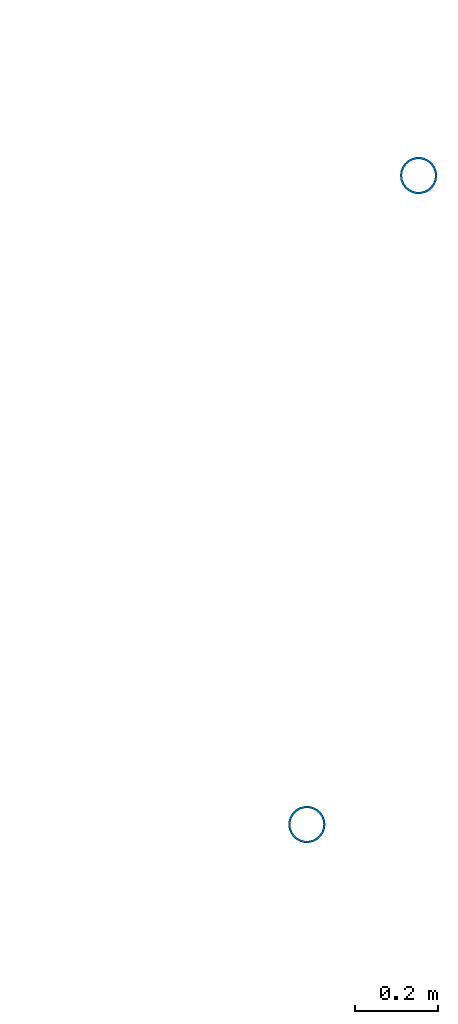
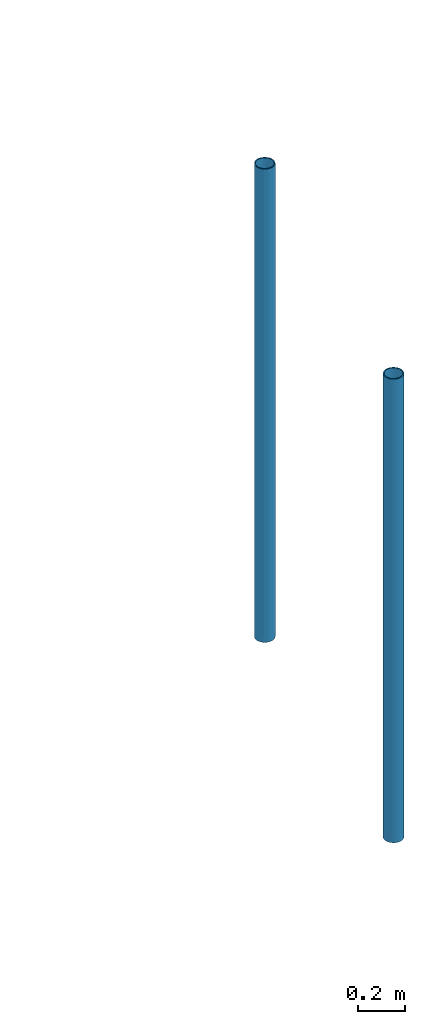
# One storey, part 2 of 5: 2 columns.
"""IFC2X3 building model written with IfcOpenShell, lengths in millimetres."""

import ifcopenshell
import ifcopenshell.guid

model = None  # the IFC model being written
_history = None  # IfcOwnerHistory: only IFC2X3 demands one
_inside = {}  # id of a spatial element -> (the spatial element, [elements in it])
_under = {}  # id of a project, library or spatial element -> (it, [spatial elements below it])
_declared = {}  # id of a project -> (the project, [libraries it declares])
_typed = {}  # id of a type object -> (the type object, [elements of that type])
_made_of = {}  # id of a material, layer set ... -> (it, [elements and type objects made of it])


def new_model(schema):
    """Start an empty IFC model of exactly this schema.

    Asked for "IFC4X3", IfcOpenShell would pick the latest addendum, in which some entities
    have other attributes; the version numbers below select the first issue.
    IFC2X3 requires an IfcOwnerHistory on every rooted entity: one is made here for all.
    """
    global model, _history
    if schema == "IFC4X3":
        model = ifcopenshell.file(schema_version=(4, 3, 0, 0))
    else:
        model = ifcopenshell.file(schema=schema)
    _inside.clear()
    _under.clear()
    _declared.clear()
    _typed.clear()
    _made_of.clear()
    _history = None
    if model.schema == "IFC2X3":
        org = make("IfcOrganization", Name="unknown")
        user = make(
            "IfcPersonAndOrganization",
            ThePerson=make("IfcPerson", FamilyName="unknown"),
            TheOrganization=org,
        )
        app = make(
            "IfcApplication",
            ApplicationDeveloper=org,
            Version="unknown",
            ApplicationFullName="unknown",
            ApplicationIdentifier="unknown",
        )
        _history = make(
            "IfcOwnerHistory",
            OwningUser=user,
            OwningApplication=app,
            ChangeAction="ADDED",
            CreationDate=0,
        )
    return model


def make(cls, **values):
    """One entity of the class cls with the attributes given. An attribute that is None is left unset."""
    return model.create_entity(
        cls, **{name: value for name, value in values.items() if value is not None}
    )


def entity(cls, *values):
    """Any entity or typed value of the class cls, its attributes in the order of the schema. None: left unset."""
    e = model.create_entity(cls)
    for i, value in enumerate(values):
        if value is not None:
            e[i] = value
    return e


def rooted(cls, **values):
    """An entity with a GlobalId (a new one), such as an element, a storey or a relation."""
    return make(cls, GlobalId=ifcopenshell.guid.new(), OwnerHistory=_history, **values)


def si_unit(unit_type, name, prefix=None):
    """IfcSIUnit, for example si_unit("LENGTHUNIT", "METRE", prefix="MILLI")."""
    return make("IfcSIUnit", UnitType=unit_type, Prefix=prefix, Name=name)


def converted_unit(unit_type, name, factor, base, dimensions=None, offset=None):
    """IfcConversionBasedUnit, such as the inch: factor (a typed value) times the base unit."""
    return make(
        "IfcConversionBasedUnit"
        if offset is None
        else "IfcConversionBasedUnitWithOffset",
        ConversionOffset=offset,
        Dimensions=None
        if dimensions is None
        else entity("IfcDimensionalExponents", *dimensions),
        UnitType=unit_type,
        Name=name,
        ConversionFactor=make(
            "IfcMeasureWithUnit", ValueComponent=factor, UnitComponent=base
        ),
    )


def derived_unit(unit_type, elements):
    """IfcDerivedUnit: a product of units, each with its exponent."""
    return make(
        "IfcDerivedUnit",
        Elements=[
            make("IfcDerivedUnitElement", Unit=unit, Exponent=power)
            for unit, power in elements
        ],
        UnitType=unit_type,
    )


def assignment(units):
    """IfcUnitAssignment: the units of a project."""
    return None if units is None else make("IfcUnitAssignment", Units=units)


def point(xyz):
    """IfcCartesianPoint."""
    return None if xyz is None else make("IfcCartesianPoint", Coordinates=xyz)


def direction(xyz):
    """IfcDirection."""
    return None if xyz is None else make("IfcDirection", DirectionRatios=xyz)


def frame(location, z_axis=None, x_axis=None):
    """IfcAxis2Placement3D, a coordinate frame: its origin and axes. An axis left out is left unset."""
    return make(
        "IfcAxis2Placement3D",
        Location=point(location),
        Axis=direction(z_axis),
        RefDirection=direction(x_axis),
    )


def frame_2d(location, x_axis=None):
    """IfcAxis2Placement2D, a coordinate frame in the plane: its origin and x axis."""
    return make(
        "IfcAxis2Placement2D", Location=point(location), RefDirection=direction(x_axis)
    )


def origin():
    """The frame at (0, 0, 0) with its axes left unset."""
    return frame((0.0, 0.0, 0.0))


def place(relative_to, where):
    """IfcLocalPlacement: puts the frame where relative to a parent placement (None: the world)."""
    return make(
        "IfcLocalPlacement", PlacementRelTo=relative_to, RelativePlacement=where
    )


def context(
    kind, dimensions, precision=None, world=None, true_north=None, identifier=None
):
    """IfcGeometricRepresentationContext, for example the 3D "Model" context."""
    return make(
        "IfcGeometricRepresentationContext",
        ContextIdentifier=identifier,
        ContextType=kind,
        CoordinateSpaceDimension=dimensions,
        Precision=precision,
        WorldCoordinateSystem=world,
        TrueNorth=true_north,
    )


def subcontext(parent, identifier, kind, view, scale=None):
    """IfcGeometricRepresentationSubContext, for example "Body" below "Model"."""
    return make(
        "IfcGeometricRepresentationSubContext",
        ContextIdentifier=identifier,
        ContextType=kind,
        ParentContext=parent,
        TargetScale=scale,
        TargetView=view,
    )


def project(units=None, contexts=None):
    """IfcProject with its units and contexts."""
    return rooted(
        "IfcProject",
        Name="project",
        RepresentationContexts=contexts,
        UnitsInContext=assignment(units),
    )


def spatial(cls, under=None, at=None, **own):
    """A site, building, storey or space (cls), placed at a placement, below another one or the project."""
    s = rooted(cls, ObjectPlacement=at, **own)
    if under is not None:
        _under.setdefault(under.id(), (under, []))[1].append(s)
    return s


def profile(cls, at=None, kind="AREA", **sizes):
    """A parametric profile (cls). Its sizes go by their IFC names, for example OverallWidth=200.0."""
    return make(cls, ProfileType=kind, Position=at, **sizes)


def hollow_circle(**sizes):
    """IfcCircleHollowProfileDef."""
    return profile("IfcCircleHollowProfileDef", **sizes)


def extrude(swept, where, along, depth):
    """IfcExtrudedAreaSolid: the profile swept, set in the frame where, extruded along a direction by depth."""
    return make(
        "IfcExtrudedAreaSolid",
        SweptArea=swept,
        Position=where,
        ExtrudedDirection=direction(along),
        Depth=depth,
    )


def shape(context_of_items, identifier, shape_type, items):
    """IfcShapeRepresentation: the items that make up one representation, for example the "Body"."""
    return make(
        "IfcShapeRepresentation",
        ContextOfItems=context_of_items,
        RepresentationIdentifier=identifier,
        RepresentationType=shape_type,
        Items=items,
    )


def source(mapping_origin, context_of_items, identifier, shape_type, items):
    """IfcRepresentationMap: a shape defined once, which mapped items show again and again."""
    return make(
        "IfcRepresentationMap",
        MappingOrigin=mapping_origin,
        MappedRepresentation=shape(context_of_items, identifier, shape_type, items),
    )


def transform(
    local_origin,
    x_axis=None,
    y_axis=None,
    z_axis=None,
    scale=None,
    scale2=None,
    scale3=None,
    uniform=True,
):
    """IfcCartesianTransformationOperator3D, or its non-uniform kind. x_axis, y_axis, z_axis: its Axis1, 2, 3."""
    if uniform:
        return make(
            "IfcCartesianTransformationOperator3D",
            Axis1=direction(x_axis),
            Axis2=direction(y_axis),
            LocalOrigin=point(local_origin),
            Scale=scale,
            Axis3=direction(z_axis),
        )
    return make(
        "IfcCartesianTransformationOperator3DnonUniform",
        Axis1=direction(x_axis),
        Axis2=direction(y_axis),
        LocalOrigin=point(local_origin),
        Scale=scale,
        Axis3=direction(z_axis),
        Scale2=scale2,
        Scale3=scale3,
    )


def mapped(mapping_source, mapping_target):
    """IfcMappedItem: shows the shape of a source again, moved by a transform."""
    return make(
        "IfcMappedItem", MappingSource=mapping_source, MappingTarget=mapping_target
    )


def material(Name=None, Category=None):
    """IfcMaterial."""
    return make("IfcMaterial", Name=Name, Category=Category)


def material_list(materials):
    """IfcMaterialList."""
    return make("IfcMaterialList", Materials=materials)


def made_of(thing, what):
    """Note that an element or type object is made of a material, layer set ...; save() writes the relation."""
    if what is not None:
        _made_of.setdefault(what.id(), (what, []))[1].append(thing)
    return thing


def type_object(cls, material=None, **own):
    """A type object (cls), such as IfcWallType, which elements share."""
    return made_of(rooted(cls, **own), material)


def type_shapes(of_type, sources):
    """Give a type object the sources (RepresentationMaps) that its elements show as mapped items."""
    of_type.RepresentationMaps = sources


def element(
    cls,
    number,
    at=None,
    inside=None,
    cuts=None,
    type_object=None,
    material=None,
    context=None,
    identifier="Body",
    shape_type=None,
    held_by="IfcProductDefinitionShape",
    body=None,
    shapes=None,
    **own,
):
    """One element of the class cls, such as IfcWall. Its Tag is "e" and its number.

    at: its placement. inside: the storey or other place that contains it. cuts: it is an
    opening in that element (IfcRelVoidsElement). A single representation is given by context,
    identifier, shape_type and body (its items); several are given by shapes. held_by: the class
    of the entity that holds the representations. save() writes the other relations.
    """
    e = rooted(cls, Tag="e%d" % number, ObjectPlacement=at, **own)
    if body is not None:
        shapes = [shape(context, identifier, shape_type, body)]
    if shapes is not None:
        e.Representation = make(held_by, Representations=shapes)
    if inside is not None:
        _inside.setdefault(inside.id(), (inside, []))[1].append(e)
    if cuts is not None:
        rooted(
            "IfcRelVoidsElement", RelatingBuildingElement=cuts, RelatedOpeningElement=e
        )
    if type_object is not None:
        _typed.setdefault(type_object.id(), (type_object, []))[1].append(e)
    return made_of(e, material)


def aggregate(whole, parts):
    """IfcRelAggregates: a whole, such as a stair, and the parts it consists of."""
    return rooted("IfcRelAggregates", RelatingObject=whole, RelatedObjects=parts)


def save(model, path):
    """Write the relations noted so far, then the file.

    IfcRelAggregates (storeys below a building ...), IfcRelContainedInSpatialStructure (elements
    in a storey), IfcRelDefinesByType, IfcRelAssociatesMaterial and IfcRelDeclares: one each for
    every whole, place, type object, material and project.
    """
    for whole, parts in _under.values():
        aggregate(whole, parts)
    for where, things in _inside.values():
        rooted(
            "IfcRelContainedInSpatialStructure",
            RelatedElements=things,
            RelatingStructure=where,
        )
    for kind, things in _typed.values():
        rooted("IfcRelDefinesByType", RelatedObjects=things, RelatingType=kind)
    for what, things in _made_of.values():
        rooted("IfcRelAssociatesMaterial", RelatedObjects=things, RelatingMaterial=what)
    for by, libraries in _declared.values():
        rooted("IfcRelDeclares", RelatingContext=by, RelatedDefinitions=libraries)
    model.write(path)


model = new_model("IFC2X3")

# Units and contexts
model_context = context("Model", 3, precision=0.01, world=origin(), true_north=direction((6.12303176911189e-17, 1.0)))
context_of_model = context(None, 3, precision=0.01, world=origin(), true_north=direction((6.12303176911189e-17, 1.0)))
body_context = subcontext(model_context, "Body", "Model", "MODEL_VIEW")
ifc_project = project(units=[si_unit("LENGTHUNIT", "METRE", prefix="MILLI"), si_unit("AREAUNIT", "SQUARE_METRE"), si_unit("VOLUMEUNIT", "CUBIC_METRE"), converted_unit("PLANEANGLEUNIT", "DEGREE", entity("IfcRatioMeasure", 0.0174532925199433), si_unit("PLANEANGLEUNIT", "RADIAN"), dimensions=[0, 0, 0, 0, 0, 0, 0]), si_unit("MASSUNIT", "GRAM", prefix="KILO"), derived_unit("MASSDENSITYUNIT", [(si_unit("MASSUNIT", "GRAM", prefix="KILO"), 1), (si_unit("LENGTHUNIT", "METRE"), -3)]), derived_unit("MOMENTOFINERTIAUNIT", [(si_unit("LENGTHUNIT", "METRE"), 4)]), si_unit("TIMEUNIT", "SECOND"), si_unit("FREQUENCYUNIT", "HERTZ"), si_unit("THERMODYNAMICTEMPERATUREUNIT", "DEGREE_CELSIUS"), derived_unit("THERMALTRANSMITTANCEUNIT", [(si_unit("MASSUNIT", "GRAM", prefix="KILO"), 1), (si_unit("THERMODYNAMICTEMPERATUREUNIT", "KELVIN"), -1), (si_unit("TIMEUNIT", "SECOND"), -3)]), derived_unit("VOLUMETRICFLOWRATEUNIT", [(si_unit("LENGTHUNIT", "METRE"), 3), (si_unit("TIMEUNIT", "SECOND"), -1)]), si_unit("ELECTRICCURRENTUNIT", "AMPERE"), si_unit("ELECTRICVOLTAGEUNIT", "VOLT"), si_unit("POWERUNIT", "WATT"), si_unit("FORCEUNIT", "NEWTON", prefix="KILO"), si_unit("ILLUMINANCEUNIT", "LUX"), si_unit("LUMINOUSFLUXUNIT", "LUMEN"), si_unit("LUMINOUSINTENSITYUNIT", "CANDELA"), derived_unit("USERDEFINED", [(si_unit("MASSUNIT", "GRAM", prefix="KILO"), -1), (si_unit("LENGTHUNIT", "METRE"), -2), (si_unit("TIMEUNIT", "SECOND"), 3), (si_unit("LUMINOUSFLUXUNIT", "LUMEN"), 1)]), derived_unit("LINEARVELOCITYUNIT", [(si_unit("LENGTHUNIT", "METRE"), 1), (si_unit("TIMEUNIT", "SECOND"), -1)]), si_unit("PRESSUREUNIT", "PASCAL"), derived_unit("USERDEFINED", [(si_unit("LENGTHUNIT", "METRE"), -2), (si_unit("MASSUNIT", "GRAM", prefix="KILO"), 1), (si_unit("TIMEUNIT", "SECOND"), -2)]), derived_unit("LINEARFORCEUNIT", [(si_unit("MASSUNIT", "GRAM", prefix="KILO"), 1), (si_unit("LENGTHUNIT", "METRE"), 1), (si_unit("TIMEUNIT", "SECOND"), -2), (si_unit("LENGTHUNIT", "METRE"), -1)]), derived_unit("PLANARFORCEUNIT", [(si_unit("MASSUNIT", "GRAM", prefix="KILO"), 1), (si_unit("LENGTHUNIT", "METRE"), 1), (si_unit("TIMEUNIT", "SECOND"), -2), (si_unit("LENGTHUNIT", "METRE"), -2)])], contexts=[model_context, context_of_model])

# Site, building, storey
site_placement = place(None, origin())
site = spatial("IfcSite", under=ifc_project, at=site_placement, Name="Default", CompositionType="ELEMENT")
building_placement = place(site_placement, origin())
building = spatial("IfcBuilding", under=site, at=building_placement, Name="IFc", CompositionType="ELEMENT")
storey_placement = place(building_placement, frame((0.0, 0.0, 3000.0)))
storey = spatial("IfcBuildingStorey", under=building, at=storey_placement, Name="01 1e verd. b.k. ruwe vloer", CompositionType="ELEMENT", Elevation=3000.00000000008)

# Columns
ifc_material_1 = material(Name="IMd_staal")
ifc_material_2 = material(Name="<Unnamed>")
ifc_material_list_1 = material_list([ifc_material_2, ifc_material_1])
column_type_1 = type_object("IfcColumnType", Name="NLRS_28_SC_TLB_kolom buis_generiek_ISR:ø88.9x5", PredefinedType="COLUMN", material=ifc_material_list_1)
shared_shape_1 = source(origin(), body_context, "Body", "SweptSolid", [
    extrude(hollow_circle(Radius=44.45, WallThickness=4.99999999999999, at=frame_2d((-1.68427735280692e-15, -5.64975186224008e-14), x_axis=(1.0, 0.0))), frame((0.0, 0.0, 3500.0), z_axis=(0.0, 0.0, 1.0), x_axis=(-1.0, 0.0, 0.0)), (0.0, 0.0, 1.0), 2450.0),
])
type_shapes(column_type_1, [shared_shape_1])
column_1_placement = place(storey_placement, frame((31501.52699392, 19884.8781417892, -3000.0)))
element("IfcColumn", 1, at=column_1_placement, inside=storey, type_object=column_type_1, material=ifc_material_1, Name="NLRS_28_SC_TLB_kolom buis_generiek_ISR:ø88.9x5", ObjectType="NLRS_28_SC_TLB_kolom buis_generiek_ISR:ø88.9x5", context=body_context, shape_type="MappedRepresentation", body=[
    mapped(shared_shape_1, transform((0.0, 0.0, 0.0), scale=1.0)),
])
ifc_material_list_2 = material_list([ifc_material_2, ifc_material_1])
column_type_2 = type_object("IfcColumnType", Name="NLRS_28_SC_TLB_kolom buis_generiek_ISR:ø88.9x5", PredefinedType="COLUMN", material=ifc_material_list_2)
shared_shape_2 = source(origin(), body_context, "Body", "SweptSolid", [
    extrude(hollow_circle(Radius=44.45, WallThickness=4.99999999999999, at=frame_2d((-1.68427735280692e-15, -5.64975186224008e-14), x_axis=(1.0, 0.0))), frame((0.0, 0.0, 3500.0), z_axis=(0.0, 0.0, 1.0), x_axis=(-1.0, 0.0, 0.0)), (0.0, 0.0, 1.0), 2400.0),
])
type_shapes(column_type_2, [shared_shape_2])
column_2_placement = place(storey_placement, frame((31233.6889066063, 18329.2425557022, -3000.0)))
element("IfcColumn", 2, at=column_2_placement, inside=storey, type_object=column_type_2, material=ifc_material_1, Name="NLRS_28_SC_TLB_kolom buis_generiek_ISR:ø88.9x5", ObjectType="NLRS_28_SC_TLB_kolom buis_generiek_ISR:ø88.9x5", context=body_context, shape_type="MappedRepresentation", body=[
    mapped(shared_shape_2, transform((0.0, 0.0, 0.0), scale=1.0)),
])

save(model, "model.ifc")
